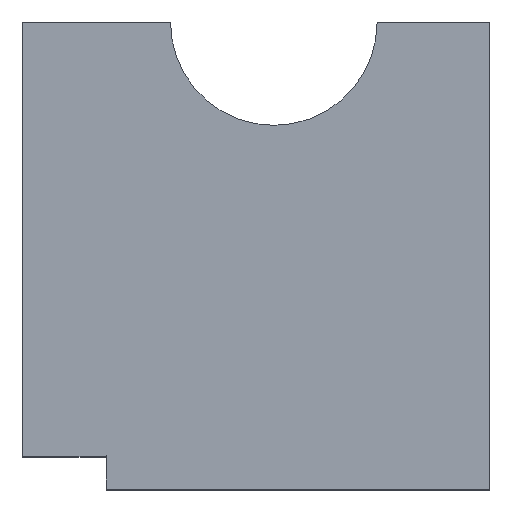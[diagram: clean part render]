
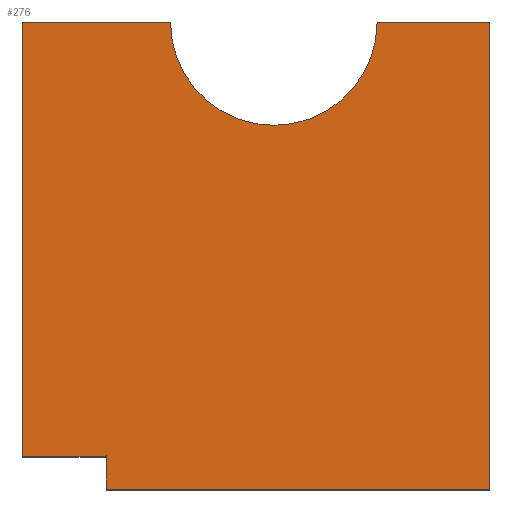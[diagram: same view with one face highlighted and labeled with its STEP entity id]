
A CAD part, top view. The second image highlights one B-rep face of the part: STEP entity #276.
In plain terms, the highlighted planar face has unit normal (0, 0, 1).
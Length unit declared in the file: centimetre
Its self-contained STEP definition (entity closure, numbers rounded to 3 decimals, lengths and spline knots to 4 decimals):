
#4 = AXIS2_PLACEMENT_3D ( 'NONE', #205, #440, #208 ) ;
#16 = VERTEX_POINT ( 'NONE', #350 ) ;
#21 = VECTOR ( 'NONE', #306, 100. ) ;
#24 = CARTESIAN_POINT ( 'NONE',  ( 1000., 1000., 1000. ) ) ;
#43 = DIRECTION ( 'NONE',  ( 0., 1., 0. ) ) ;
#45 = CARTESIAN_POINT ( 'NONE',  ( 0., 1000., 1000. ) ) ;
#48 = DIRECTION ( 'NONE',  ( 0., -1., 0. ) ) ;
#52 = ORIENTED_EDGE ( 'NONE', *, *, #154, .T. ) ;
#53 = CARTESIAN_POINT ( 'NONE',  ( 179.507, 69.7996, 1000. ) ) ;
#77 = CARTESIAN_POINT ( 'NONE',  ( 0., 1000., 1000. ) ) ;
#79 = LINE ( 'NONE', #152, #465 ) ;
#83 = DIRECTION ( 'NONE',  ( -1., 0., 0. ) ) ;
#108 = ORIENTED_EDGE ( 'NONE', *, *, #371, .T. ) ;
#110 = VERTEX_POINT ( 'NONE', #403 ) ;
#131 = CARTESIAN_POINT ( 'NONE',  ( 0., 1000., 1000. ) ) ;
#133 = CARTESIAN_POINT ( 'NONE',  ( 316.9529, 1000., 1000. ) ) ;
#137 = ORIENTED_EDGE ( 'NONE', *, *, #462, .T. ) ;
#152 = CARTESIAN_POINT ( 'NONE',  ( 179.507, 69.7996, 1000. ) ) ;
#154 = EDGE_CURVE ( 'NONE', #110, #346, #196, .T. ) ;
#157 = CIRCLE ( 'NONE', #4, 221.1702 ) ;
#158 = VECTOR ( 'NONE', #180, 100. ) ;
#180 = DIRECTION ( 'NONE',  ( 1., 0., 0. ) ) ;
#183 = VECTOR ( 'NONE', #209, 100. ) ;
#188 = EDGE_CURVE ( 'NONE', #298, #221, #402, .T. ) ;
#193 = LINE ( 'NONE', #77, #21 ) ;
#196 = LINE ( 'NONE', #435, #343 ) ;
#198 = VERTEX_POINT ( 'NONE', #53 ) ;
#204 = VECTOR ( 'NONE', #48, 100. ) ;
#205 = CARTESIAN_POINT ( 'NONE',  ( 538.1231, 1000., 1000. ) ) ;
#208 = DIRECTION ( 'NONE',  ( 1., 0., 0. ) ) ;
#209 = DIRECTION ( 'NONE',  ( 0., 1., 0. ) ) ;
#221 = VERTEX_POINT ( 'NONE', #362 ) ;
#224 = EDGE_CURVE ( 'NONE', #298, #327, #157, .T. ) ;
#229 = DIRECTION ( 'NONE',  ( -1., 0., 0. ) ) ;
#235 = ORIENTED_EDGE ( 'NONE', *, *, #419, .F. ) ;
#241 = ORIENTED_EDGE ( 'NONE', *, *, #243, .T. ) ;
#242 = DIRECTION ( 'NONE',  ( 1., 0., 0. ) ) ;
#243 = EDGE_CURVE ( 'NONE', #221, #16, #326, .T. ) ;
#248 = ORIENTED_EDGE ( 'NONE', *, *, #459, .F. ) ;
#255 = VECTOR ( 'NONE', #83, 100. ) ;
#258 = LINE ( 'NONE', #379, #158 ) ;
#264 = ORIENTED_EDGE ( 'NONE', *, *, #188, .T. ) ;
#271 = AXIS2_PLACEMENT_3D ( 'NONE', #284, #443, #242 ) ;
#276 = ADVANCED_FACE ( 'NONE', ( #322 ), #482, .T. ) ;
#280 = VERTEX_POINT ( 'NONE', #405 ) ;
#284 = CARTESIAN_POINT ( 'NONE',  ( 0., 0., 1000. ) ) ;
#296 = EDGE_LOOP ( 'NONE', ( #442, #264, #241, #248, #235, #108, #52, #137 ) ) ;
#298 = VERTEX_POINT ( 'NONE', #133 ) ;
#306 = DIRECTION ( 'NONE',  ( -1., 0., 0. ) ) ;
#322 = FACE_OUTER_BOUND ( 'NONE', #296, .T. ) ;
#326 = LINE ( 'NONE', #131, #204 ) ;
#327 = VERTEX_POINT ( 'NONE', #331 ) ;
#331 = CARTESIAN_POINT ( 'NONE',  ( 759.2933, 1000., 1000. ) ) ;
#343 = VECTOR ( 'NONE', #43, 100. ) ;
#346 = VERTEX_POINT ( 'NONE', #24 ) ;
#350 = CARTESIAN_POINT ( 'NONE',  ( 0., 69.7996, 1000. ) ) ;
#362 = CARTESIAN_POINT ( 'NONE',  ( 0., 1000., 1000. ) ) ;
#371 = EDGE_CURVE ( 'NONE', #280, #110, #258, .T. ) ;
#379 = CARTESIAN_POINT ( 'NONE',  ( 0., 0., 1000. ) ) ;
#380 = CARTESIAN_POINT ( 'NONE',  ( 179.507, 0., 1000. ) ) ;
#402 = LINE ( 'NONE', #45, #255 ) ;
#403 = CARTESIAN_POINT ( 'NONE',  ( 1000., 0., 1000. ) ) ;
#405 = CARTESIAN_POINT ( 'NONE',  ( 179.507, 0., 1000. ) ) ;
#419 = EDGE_CURVE ( 'NONE', #280, #198, #458, .T. ) ;
#435 = CARTESIAN_POINT ( 'NONE',  ( 1000., 1000., 1000. ) ) ;
#440 = DIRECTION ( 'NONE',  ( 0., 0., 1. ) ) ;
#442 = ORIENTED_EDGE ( 'NONE', *, *, #224, .F. ) ;
#443 = DIRECTION ( 'NONE',  ( 0., 0., 1. ) ) ;
#458 = LINE ( 'NONE', #380, #183 ) ;
#459 = EDGE_CURVE ( 'NONE', #198, #16, #79, .T. ) ;
#462 = EDGE_CURVE ( 'NONE', #346, #327, #193, .T. ) ;
#465 = VECTOR ( 'NONE', #229, 100. ) ;
#482 = PLANE ( 'NONE',  #271 ) ;
